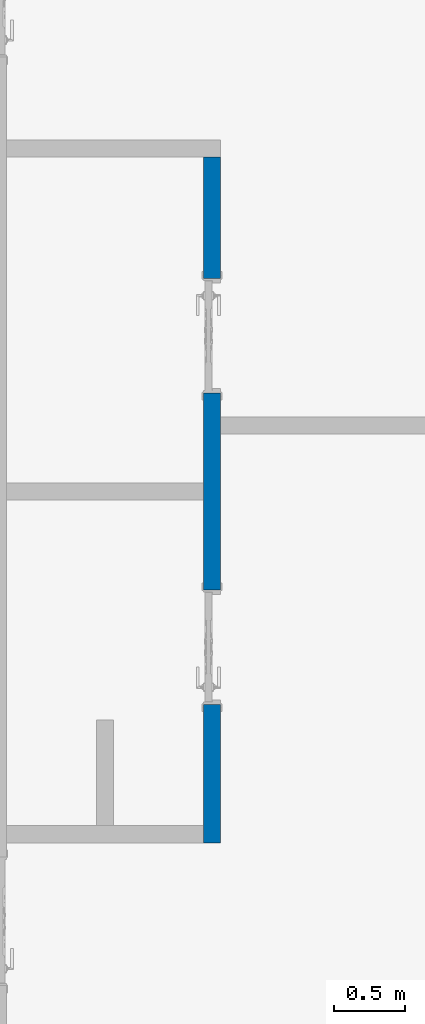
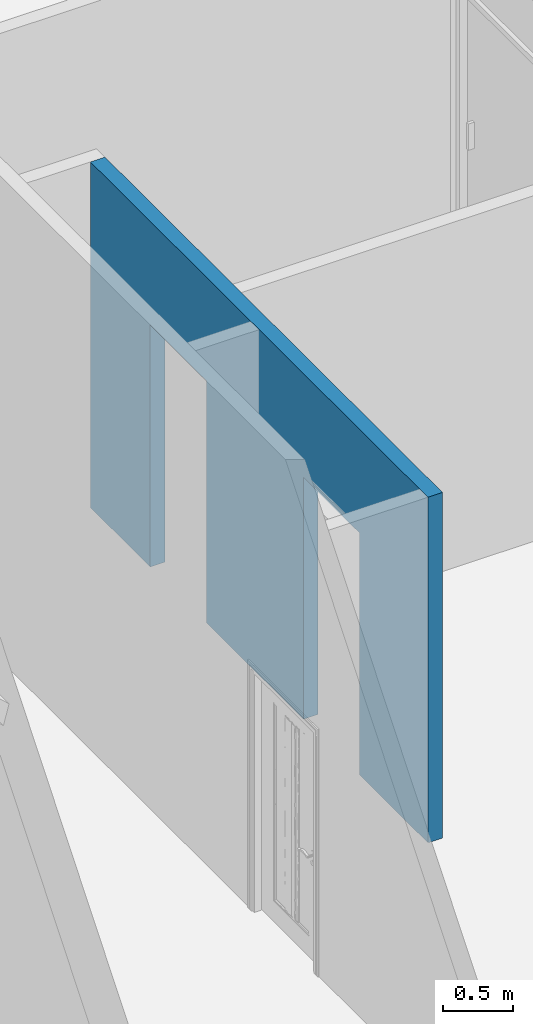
# One storey, part 21 of 33: 1 wall, 2 openings.
"""IFC2X3 building model written with IfcOpenShell, lengths in millimetres."""

from ifc_helpers import new_model, entity, si_unit, converted_unit, derived_unit, direction, frame, frame_2d, origin, place, context, subcontext, project, spatial, rectangle, extrude, material, layer, layer_set, layer_usage, type_object, element, save


model = new_model("IFC2X3")

# Units and contexts
model_context = context("Model", 3, precision=0.01, world=origin(), true_north=direction((6.12303176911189e-17, 1.0)))
body_context = subcontext(model_context, "Body", "Model", "MODEL_VIEW")
ifc_project = project(units=[si_unit("LENGTHUNIT", "METRE", prefix="MILLI"), si_unit("AREAUNIT", "SQUARE_METRE"), si_unit("VOLUMEUNIT", "CUBIC_METRE"), converted_unit("PLANEANGLEUNIT", "DEGREE", entity("IfcRatioMeasure", 0.0174532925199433), si_unit("PLANEANGLEUNIT", "RADIAN"), dimensions=[0, 0, 0, 0, 0, 0, 0]), si_unit("MASSUNIT", "GRAM", prefix="KILO"), derived_unit("MASSDENSITYUNIT", [(si_unit("MASSUNIT", "GRAM", prefix="KILO"), 1), (si_unit("LENGTHUNIT", "METRE"), -3)]), si_unit("TIMEUNIT", "SECOND"), si_unit("FREQUENCYUNIT", "HERTZ"), si_unit("THERMODYNAMICTEMPERATUREUNIT", "DEGREE_CELSIUS"), derived_unit("THERMALTRANSMITTANCEUNIT", [(si_unit("MASSUNIT", "GRAM", prefix="KILO"), 1), (si_unit("THERMODYNAMICTEMPERATUREUNIT", "KELVIN"), -1), (si_unit("TIMEUNIT", "SECOND"), -3)]), derived_unit("VOLUMETRICFLOWRATEUNIT", [(si_unit("LENGTHUNIT", "METRE"), 3), (si_unit("TIMEUNIT", "SECOND"), -1)]), si_unit("ELECTRICCURRENTUNIT", "AMPERE"), si_unit("ELECTRICVOLTAGEUNIT", "VOLT"), si_unit("POWERUNIT", "WATT"), si_unit("FORCEUNIT", "NEWTON", prefix="KILO"), si_unit("ILLUMINANCEUNIT", "LUX"), si_unit("LUMINOUSFLUXUNIT", "LUMEN"), si_unit("LUMINOUSINTENSITYUNIT", "CANDELA"), derived_unit("USERDEFINED", [(si_unit("MASSUNIT", "GRAM", prefix="KILO"), -1), (si_unit("LENGTHUNIT", "METRE"), -2), (si_unit("TIMEUNIT", "SECOND"), 3), (si_unit("LUMINOUSFLUXUNIT", "LUMEN"), 1)]), derived_unit("LINEARVELOCITYUNIT", [(si_unit("LENGTHUNIT", "METRE"), 1), (si_unit("TIMEUNIT", "SECOND"), -1)]), si_unit("PRESSUREUNIT", "PASCAL"), derived_unit("USERDEFINED", [(si_unit("LENGTHUNIT", "METRE"), -2), (si_unit("MASSUNIT", "GRAM", prefix="KILO"), 1), (si_unit("TIMEUNIT", "SECOND"), -2)])], contexts=[model_context])

# Site, building, storey
site_placement = place(None, origin())
site = spatial("IfcSite", under=ifc_project, at=site_placement, Name="表面", CompositionType="ELEMENT")
building_placement = place(site_placement, origin())
building = spatial("IfcBuilding", under=site, at=building_placement, CompositionType="ELEMENT")
storey_placement = place(building_placement, frame((0.0, 0.0, 6000.0)))
storey = spatial("IfcBuildingStorey", under=building, at=storey_placement, Name="3F", CompositionType="ELEMENT", Elevation=6000.00000000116)

# Wall, openings
ifc_material_1 = material(Name="白色涂料")
ifc_layer_1 = layer(ifc_material_1, 10.0)
ifc_material_2 = material(Name="默认墙")
ifc_layer_2 = layer(ifc_material_2, 100.0)
ifc_layer_3 = layer(ifc_material_1, 10.0)
ifc_layer_set = layer_set([ifc_layer_1, ifc_layer_2, ifc_layer_3], Name="基本墙:粉刷墙120")
ifc_layer_usage = layer_usage(ifc_layer_set, "AXIS2", "NEGATIVE", 60.0)
wall_type = type_object("IfcWallType", Name="基本墙:粉刷墙120", PredefinedType="STANDARD", material=ifc_layer_set)
wall_placement = place(storey_placement, frame((-10630.2499126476, -19776.868426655, 0.0), z_axis=(0.0, 0.0, 1.0), x_axis=(0.0, -1.0, 0.0)))
wall = element("IfcWallStandardCase", 1, at=wall_placement, inside=storey, type_object=wall_type, material=ifc_layer_usage, Name="基本墙:粉刷墙120", ObjectType="基本墙:粉刷墙120", context=body_context, shape_type="SweptSolid", body=[
    extrude(rectangle(XDim=4800.0, YDim=119.999999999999, at=frame_2d((2400.0, 0.0), x_axis=(-1.0, 0.0))), origin(), (0.0, 0.0, 1.0), 3000.0),
])
opening_1_placement = place(wall_placement, frame((3830.0, 60.0, 1.15433635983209e-09)))
element("IfcOpeningElement", 2, at=opening_1_placement, cuts=wall, Name="装饰木门:M0821:1", ObjectType="Opening", context=body_context, shape_type="SweptSolid", body=[
    extrude(rectangle(XDim=2099.99999999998, YDim=800.0, at=frame_2d((1049.99999999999, 400.0), x_axis=(1.0, 0.0))), frame((0.0, 0.0, 0.0), z_axis=(0.0, -1.0, 0.0), x_axis=(0.0, 0.0, 1.0)), (0.0, 0.0, 1.0), 120.0),
])
opening_2_placement = place(wall_placement, frame((1650.0, 60.0, 1.15433635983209e-09)))
element("IfcOpeningElement", 3, at=opening_2_placement, cuts=wall, Name="装饰木门:M0821:1", ObjectType="Opening", context=body_context, shape_type="SweptSolid", body=[
    extrude(rectangle(XDim=2099.99999999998, YDim=800.0, at=frame_2d((1049.99999999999, 400.0), x_axis=(1.0, 0.0))), frame((0.0, 0.0, 0.0), z_axis=(0.0, -1.0, 0.0), x_axis=(0.0, 0.0, 1.0)), (0.0, 0.0, 1.0), 120.0),
])

save(model, "model.ifc")
